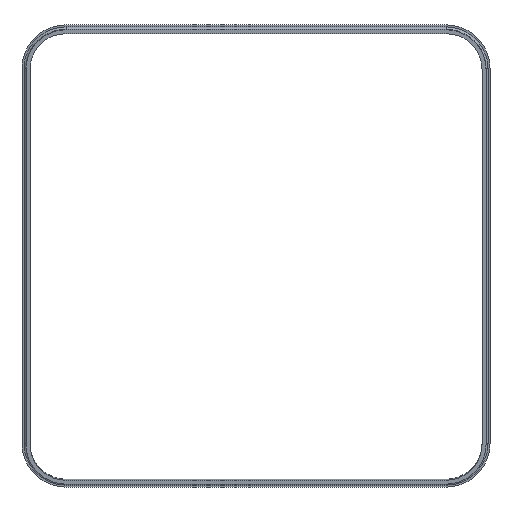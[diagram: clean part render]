
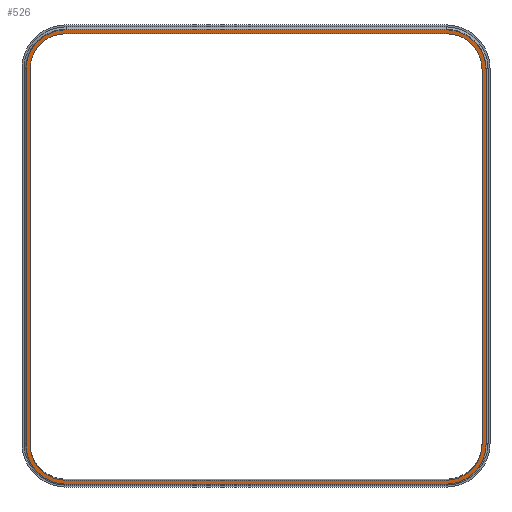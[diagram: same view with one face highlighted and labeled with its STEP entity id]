
A CAD part, front view. The second image highlights one B-rep face of the part: STEP entity #526.
In plain terms, the highlighted planar face has unit normal (0, -0.988, -0.156).
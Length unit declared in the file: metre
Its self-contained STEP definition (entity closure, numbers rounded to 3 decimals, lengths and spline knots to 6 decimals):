
#36=CIRCLE('',#574,0.018);
#37=CIRCLE('',#575,0.018);
#38=CIRCLE('',#576,0.018);
#39=CIRCLE('',#577,0.018);
#40=CIRCLE('',#578,0.02);
#41=CIRCLE('',#579,0.02);
#42=CIRCLE('',#580,0.02);
#43=CIRCLE('',#581,0.02);
#76=ORIENTED_EDGE('',*,*,#236,.T.);
#77=ORIENTED_EDGE('',*,*,#237,.T.);
#78=ORIENTED_EDGE('',*,*,#238,.T.);
#79=ORIENTED_EDGE('',*,*,#239,.T.);
#80=ORIENTED_EDGE('',*,*,#240,.T.);
#81=ORIENTED_EDGE('',*,*,#241,.T.);
#82=ORIENTED_EDGE('',*,*,#242,.T.);
#83=ORIENTED_EDGE('',*,*,#243,.T.);
#84=ORIENTED_EDGE('',*,*,#244,.F.);
#85=ORIENTED_EDGE('',*,*,#245,.T.);
#86=ORIENTED_EDGE('',*,*,#246,.F.);
#87=ORIENTED_EDGE('',*,*,#247,.T.);
#88=ORIENTED_EDGE('',*,*,#248,.F.);
#89=ORIENTED_EDGE('',*,*,#249,.F.);
#90=ORIENTED_EDGE('',*,*,#250,.F.);
#91=ORIENTED_EDGE('',*,*,#251,.F.);
#236=EDGE_CURVE('',#316,#317,#364,.T.);
#237=EDGE_CURVE('',#317,#318,#36,.T.);
#238=EDGE_CURVE('',#318,#319,#365,.F.);
#239=EDGE_CURVE('',#319,#320,#37,.T.);
#240=EDGE_CURVE('',#320,#321,#366,.F.);
#241=EDGE_CURVE('',#321,#322,#38,.T.);
#242=EDGE_CURVE('',#322,#323,#367,.T.);
#243=EDGE_CURVE('',#323,#316,#39,.T.);
#244=EDGE_CURVE('',#324,#325,#40,.T.);
#245=EDGE_CURVE('',#324,#326,#368,.T.);
#246=EDGE_CURVE('',#327,#326,#41,.T.);
#247=EDGE_CURVE('',#327,#328,#369,.F.);
#248=EDGE_CURVE('',#329,#328,#42,.T.);
#249=EDGE_CURVE('',#330,#329,#370,.T.);
#250=EDGE_CURVE('',#331,#330,#43,.T.);
#251=EDGE_CURVE('',#325,#331,#371,.F.);
#316=VERTEX_POINT('',#840);
#317=VERTEX_POINT('',#841);
#318=VERTEX_POINT('',#843);
#319=VERTEX_POINT('',#845);
#320=VERTEX_POINT('',#847);
#321=VERTEX_POINT('',#849);
#322=VERTEX_POINT('',#851);
#323=VERTEX_POINT('',#853);
#324=VERTEX_POINT('',#856);
#325=VERTEX_POINT('',#857);
#326=VERTEX_POINT('',#859);
#327=VERTEX_POINT('',#861);
#328=VERTEX_POINT('',#863);
#329=VERTEX_POINT('',#865);
#330=VERTEX_POINT('',#867);
#331=VERTEX_POINT('',#869);
#364=LINE('',#839,#404);
#365=LINE('',#844,#405);
#366=LINE('',#848,#406);
#367=LINE('',#852,#407);
#368=LINE('',#858,#408);
#369=LINE('',#862,#409);
#370=LINE('',#866,#410);
#371=LINE('',#870,#411);
#404=VECTOR('',#651,1.);
#405=VECTOR('',#654,1.);
#406=VECTOR('',#657,1.);
#407=VECTOR('',#660,1.);
#408=VECTOR('',#665,1.);
#409=VECTOR('',#668,1.);
#410=VECTOR('',#671,1.);
#411=VECTOR('',#674,1.);
#444=EDGE_LOOP('',(#76,#77,#78,#79,#80,#81,#82,#83));
#445=EDGE_LOOP('',(#84,#85,#86,#87,#88,#89,#90,#91));
#480=FACE_BOUND('',#444,.T.);
#481=FACE_BOUND('',#445,.T.);
#516=PLANE('',#573);
#526=ADVANCED_FACE('',(#480,#481),#516,.T.);
#573=AXIS2_PLACEMENT_3D('',#838,#649,#650);
#574=AXIS2_PLACEMENT_3D('',#842,#652,#653);
#575=AXIS2_PLACEMENT_3D('',#846,#655,#656);
#576=AXIS2_PLACEMENT_3D('',#850,#658,#659);
#577=AXIS2_PLACEMENT_3D('',#854,#661,#662);
#578=AXIS2_PLACEMENT_3D('',#855,#663,#664);
#579=AXIS2_PLACEMENT_3D('',#860,#666,#667);
#580=AXIS2_PLACEMENT_3D('',#864,#669,#670);
#581=AXIS2_PLACEMENT_3D('',#868,#672,#673);
#649=DIRECTION('',(0.,-0.988,-0.156));
#650=DIRECTION('',(0.,0.156,-0.988));
#651=DIRECTION('',(0.,0.156,-0.988));
#652=DIRECTION('',(0.,0.988,0.156));
#653=DIRECTION('',(0.,-0.156,0.988));
#654=DIRECTION('',(1.,0.,0.));
#655=DIRECTION('',(0.,0.988,0.156));
#656=DIRECTION('',(0.,-0.156,0.988));
#657=DIRECTION('',(0.,0.156,-0.988));
#658=DIRECTION('',(0.,0.988,0.156));
#659=DIRECTION('',(0.,-0.156,0.988));
#660=DIRECTION('',(1.,0.,0.));
#661=DIRECTION('',(0.,0.988,0.156));
#662=DIRECTION('',(0.,-0.156,0.988));
#663=DIRECTION('',(0.,0.988,0.156));
#664=DIRECTION('',(0.,-0.156,0.988));
#665=DIRECTION('',(-1.,0.,0.));
#666=DIRECTION('',(0.,0.988,0.156));
#667=DIRECTION('',(0.,-0.156,0.988));
#668=DIRECTION('',(0.,-0.156,0.988));
#669=DIRECTION('',(0.,0.988,0.156));
#670=DIRECTION('',(0.,-0.156,0.988));
#671=DIRECTION('',(-1.,0.,0.));
#672=DIRECTION('',(0.,0.988,0.156));
#673=DIRECTION('',(0.,-0.156,0.988));
#674=DIRECTION('',(0.,-0.156,0.988));
#838=CARTESIAN_POINT('',(0.253,0.217245,0.668056));
#839=CARTESIAN_POINT('',(0.251,0.217245,0.668056));
#840=CARTESIAN_POINT('',(0.251,0.204039,0.751435));
#841=CARTESIAN_POINT('',(0.251,0.233761,0.563774));
#842=CARTESIAN_POINT('',(0.233,0.233761,0.563774));
#843=CARTESIAN_POINT('',(0.233,0.236577,0.545996));
#844=CARTESIAN_POINT('',(0.253,0.236577,0.545996));
#845=CARTESIAN_POINT('',(0.043,0.236577,0.545996));
#846=CARTESIAN_POINT('',(0.043,0.233761,0.563774));
#847=CARTESIAN_POINT('',(0.025,0.233761,0.563774));
#848=CARTESIAN_POINT('',(0.025,0.217245,0.668056));
#849=CARTESIAN_POINT('',(0.025,0.204039,0.751435));
#850=CARTESIAN_POINT('',(0.043,0.204039,0.751435));
#851=CARTESIAN_POINT('',(0.043,0.201223,0.769214));
#852=CARTESIAN_POINT('',(0.253,0.201223,0.769214));
#853=CARTESIAN_POINT('',(0.233,0.201223,0.769214));
#854=CARTESIAN_POINT('',(0.233,0.204039,0.751435));
#855=CARTESIAN_POINT('',(0.233,0.204039,0.751435));
#856=CARTESIAN_POINT('',(0.233,0.20091,0.771189));
#857=CARTESIAN_POINT('',(0.253,0.204039,0.751435));
#858=CARTESIAN_POINT('',(0.136352,0.20091,0.771189));
#859=CARTESIAN_POINT('',(0.043,0.20091,0.771189));
#860=CARTESIAN_POINT('',(0.043,0.204039,0.751435));
#861=CARTESIAN_POINT('',(0.023,0.204039,0.751435));
#862=CARTESIAN_POINT('',(0.023,0.219396,0.654474));
#863=CARTESIAN_POINT('',(0.023,0.233761,0.563774));
#864=CARTESIAN_POINT('',(0.043,0.233761,0.563774));
#865=CARTESIAN_POINT('',(0.043,0.23689,0.544021));
#866=CARTESIAN_POINT('',(0.136352,0.23689,0.544021));
#867=CARTESIAN_POINT('',(0.233,0.23689,0.544021));
#868=CARTESIAN_POINT('',(0.233,0.233761,0.563774));
#869=CARTESIAN_POINT('',(0.253,0.233761,0.563774));
#870=CARTESIAN_POINT('',(0.253,0.219396,0.654474));
